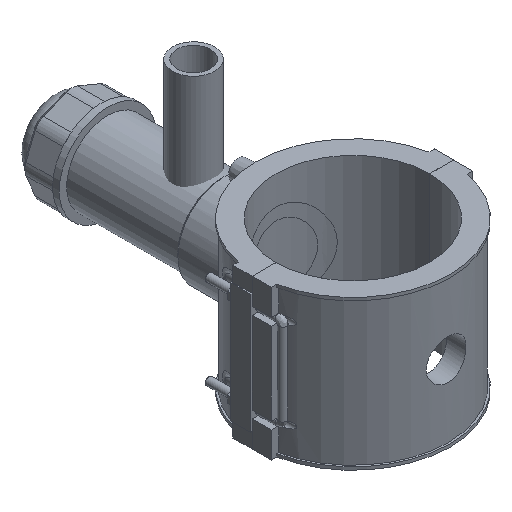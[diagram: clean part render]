
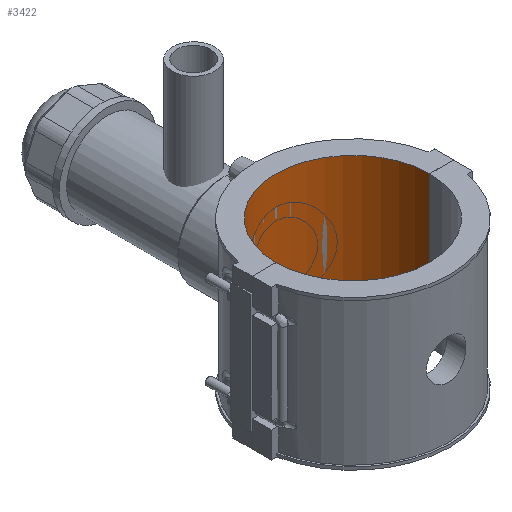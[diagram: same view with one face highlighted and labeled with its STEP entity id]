
A CAD part, isometric view. The second image highlights one B-rep face of the part: STEP entity #3422.
In plain terms, the highlighted cylindrical face has radius 60.65 mm (diameter 121.3 mm), a partial arc.
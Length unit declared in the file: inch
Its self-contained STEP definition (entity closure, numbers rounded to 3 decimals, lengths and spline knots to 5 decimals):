
#266=CIRCLE('',#3706,2.3878);
#267=CIRCLE('',#3708,2.3878);
#444=FACE_OUTER_BOUND('',#658,.T.);
#658=EDGE_LOOP('',(#2889,#2890,#2891,#2892));
#915=LINE('',#6224,#1224);
#950=LINE('',#6611,#1259);
#1224=VECTOR('',#4290,0.3937);
#1259=VECTOR('',#4425,0.3937);
#1608=VERTEX_POINT('',#6221);
#1609=VERTEX_POINT('',#6223);
#1648=VERTEX_POINT('',#6608);
#1649=VERTEX_POINT('',#6610);
#2018=EDGE_CURVE('',#1609,#1608,#915,.T.);
#2085=EDGE_CURVE('',#1649,#1648,#950,.T.);
#2088=EDGE_CURVE('',#1609,#1648,#266,.T.);
#2089=EDGE_CURVE('',#1649,#1608,#267,.T.);
#2889=ORIENTED_EDGE('',*,*,#2085,.T.);
#2890=ORIENTED_EDGE('',*,*,#2088,.F.);
#2891=ORIENTED_EDGE('',*,*,#2018,.T.);
#2892=ORIENTED_EDGE('',*,*,#2089,.F.);
#3281=CYLINDRICAL_SURFACE('',#3709,2.3878);
#3422=ADVANCED_FACE('',(#444),#3281,.F.);
#3706=AXIS2_PLACEMENT_3D('',#6616,#4430,#4431);
#3708=AXIS2_PLACEMENT_3D('',#6618,#4434,#4435);
#3709=AXIS2_PLACEMENT_3D('',#6621,#4438,#4439);
#4290=DIRECTION('',(0.,0.,-1.));
#4425=DIRECTION('',(0.,0.,1.));
#4430=DIRECTION('center_axis',(0.,0.,-1.));
#4431=DIRECTION('ref_axis',(-1.,0.,0.));
#4434=DIRECTION('center_axis',(0.,0.,1.));
#4435=DIRECTION('ref_axis',(-1.,0.,0.));
#4438=DIRECTION('center_axis',(0.,0.,1.));
#4439=DIRECTION('ref_axis',(-1.,0.,0.));
#6221=CARTESIAN_POINT('',(-2.38779,0.00197,-2.325));
#6223=CARTESIAN_POINT('',(-2.38779,0.00197,2.325));
#6224=CARTESIAN_POINT('',(-2.38779,0.00197,0.));
#6608=CARTESIAN_POINT('',(2.38779,0.00197,2.325));
#6610=CARTESIAN_POINT('',(2.38779,0.00197,-2.325));
#6611=CARTESIAN_POINT('',(2.38779,0.00197,0.));
#6616=CARTESIAN_POINT('Origin',(0.,0.,2.325));
#6618=CARTESIAN_POINT('Origin',(0.,0.,-2.325));
#6621=CARTESIAN_POINT('Origin',(0.,0.,0.));
